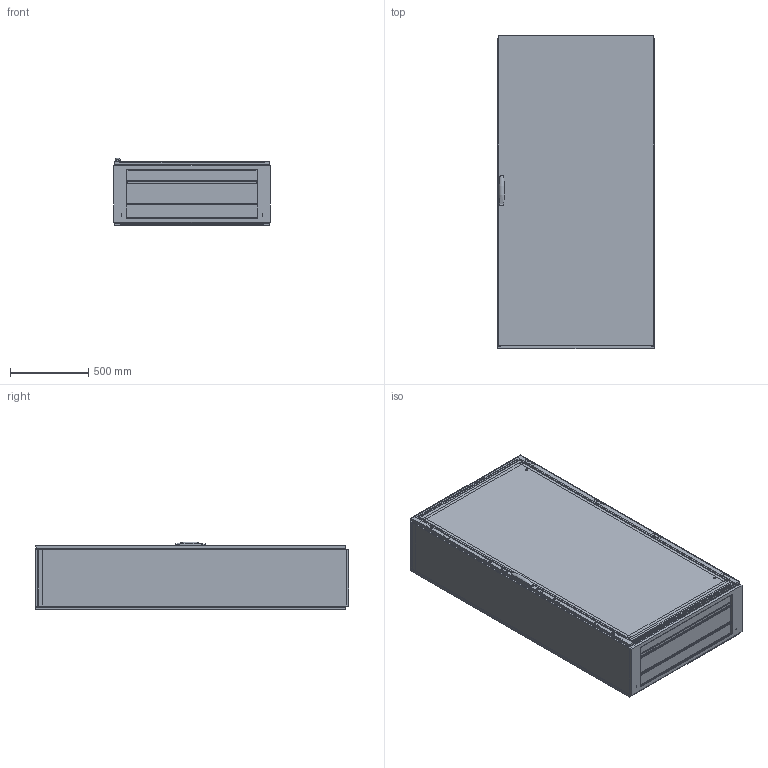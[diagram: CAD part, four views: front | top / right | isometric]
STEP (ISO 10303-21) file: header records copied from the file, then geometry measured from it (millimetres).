
FILE_DESCRIPTION(/* description */ ('STEP AP203'),/* implementation_level */ '2;1');
FILE_NAME(/* name */ 'MKS20104R5(0)',/* time_stamp */ '2024-02-23T09:07:39+01:00',/* author */ ('License CC BY-ND 4.0'),/* organization */ ('CADENAS'),/* preprocessor_version */ 'ST-DEVELOPER v19.3',/* originating_system */ 'PARTsolutions',/* authorisation */ ' ');
FILE_SCHEMA (('CONFIG_CONTROL_DESIGN','AP242_MANAGED_MODEL_BASED_3D_ENGINEERING_MIM_LF { 1 0 10303 442 3 1 4 }'));
Length unit declared in the file: millimetre
Products named in the file (19): MKS20104R5(0); MKS20104R5(0)_Frame; CRPK10(0)_Rear Panel Mounting Kit; CRP2010R5(0)_Rear Panel; CRPK10(0)_Rear Panel Bracket; DNMK02(0)_Hinge Right; DN2010R5(0)_Plain door; LSSDXXXX(0)_Lock; LSSD2000(0)_Espagnolette Top; LSSD2000(0)_Espagnolette Bottom; DNMK01(0)_Rod catches; MPA06(0)_Mounting Plate Brackets 1; MP2010(0)_P1; MPA06(0)_Mounting Plate Brackets 2; MPA06(0)_Mounting Plate Brackets 3; MPA06(0)_Mounting Plate Brackets 4; CCR104R5(0)_MKD Roof plate; CBP100(0)_Bottom Plate 1; CBP100(0)_Bottom Plate 2
Assembly tree (33 placements, depth 2):
  MKS20104R5(0)
    MKS20104R5(0)_Frame
    CRPK10(0)_Rear Panel Mounting Kit  x8
    CRP2010R5(0)_Rear Panel
    CRPK10(0)_Rear Panel Bracket  x2
    DNMK02(0)_Hinge Right  x4
    DN2010R5(0)_Plain door
    LSSDXXXX(0)_Lock
    LSSD2000(0)_Espagnolette Top
    LSSD2000(0)_Espagnolette Bottom
    DNMK01(0)_Rod catches  x4
    MPA06(0)_Mounting Plate Brackets 1
    MP2010(0)_P1
    MPA06(0)_Mounting Plate Brackets 2
    MPA06(0)_Mounting Plate Brackets 3
    MPA06(0)_Mounting Plate Brackets 4
    CCR104R5(0)_MKD Roof plate
    CBP100(0)_Bottom Plate 1  x2
    CBP100(0)_Bottom Plate 2
Bounding box: 1000 x 2005 x 434.9 mm (x, y, z)
Volume: 30026802.5 mm3; surface area: 19379391.2 mm2
Topology: 33 solids, 33 shells, 1403 faces, 3663 edges, 2419 vertices
Faces by surface type: plane 1216, cylinder 124, cone 62, torus 1
Full cylindrical faces by diameter (mm): 2.55 x2, 5 x18, 5.2 x2, 6 x6, 7 x6, 7.4 x4, 8 x20, 9 x2, 10 x8, 13 x2, 14 x4
Entity records: 31942 total; most frequent: CARTESIAN_POINT 5523, ORIENTED_EDGE 5144, DIRECTION 4958, EDGE_CURVE 2572, LINE 2276, VECTOR 2276, VERTEX_POINT 1756, AXIS2_PLACEMENT_3D 1341
